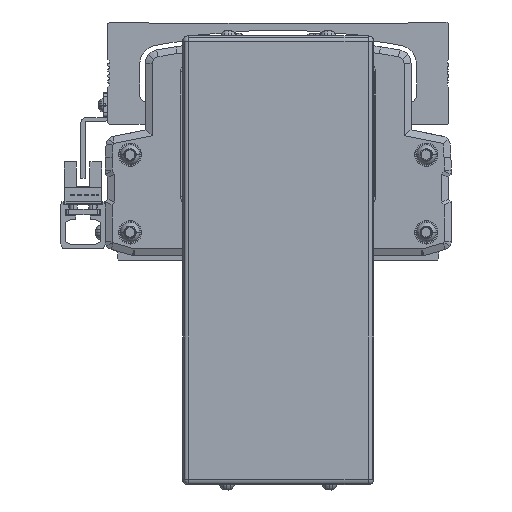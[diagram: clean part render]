
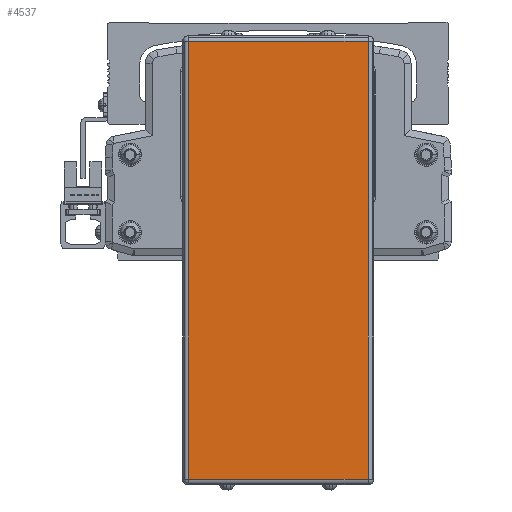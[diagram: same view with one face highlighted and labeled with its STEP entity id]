
A CAD part, front view. The second image highlights one B-rep face of the part: STEP entity #4537.
In plain terms, the highlighted planar face has unit normal (0, -1, 0).
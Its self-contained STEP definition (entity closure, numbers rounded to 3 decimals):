
#4537=ADVANCED_FACE('',(#10814),#10815,.T.);
#10814=FACE_OUTER_BOUND('',#19854,.T.);
#10815=PLANE('',#19855);
#19854=EDGE_LOOP('',(#33424,#33425,#33426,#33427));
#19855=AXIS2_PLACEMENT_3D('',#33428,#33429,#33430);
#33424=ORIENTED_EDGE('',*,*,#51322,.F.);
#33425=ORIENTED_EDGE('',*,*,#51373,.F.);
#33426=ORIENTED_EDGE('',*,*,#54798,.F.);
#33427=ORIENTED_EDGE('',*,*,#52195,.F.);
#33428=CARTESIAN_POINT('',(-299.996,-313.778,-49.1));
#33429=DIRECTION('',(0.,-1.0,0.));
#33430=DIRECTION('',(1.0,0.,0.));
#51322=EDGE_CURVE('',#61248,#61250,#61251,.T.);
#51373=EDGE_CURVE('',#61339,#61248,#61341,.T.);
#52195=EDGE_CURVE('',#61250,#62782,#62783,.T.);
#54798=EDGE_CURVE('',#62782,#61339,#67086,.T.);
#61248=VERTEX_POINT('',#75682);
#61250=VERTEX_POINT('',#75684);
#61251=LINE('',#75685,#75686);
#61339=VERTEX_POINT('',#75793);
#61341=LINE('',#75795,#75796);
#62782=VERTEX_POINT('',#77813);
#62783=LINE('',#77814,#77815);
#67086=LINE('',#84108,#84109);
#75682=CARTESIAN_POINT('',(-267.496,-313.778,30.));
#75684=CARTESIAN_POINT('',(-267.496,-313.778,-128.2));
#75685=CARTESIAN_POINT('',(-267.496,-313.778,-49.1));
#75686=VECTOR('',#94910,10.0);
#75793=CARTESIAN_POINT('',(-332.496,-313.778,30.));
#75795=CARTESIAN_POINT('',(-299.996,-313.778,30.));
#75796=VECTOR('',#94993,10.0);
#77813=CARTESIAN_POINT('',(-332.496,-313.778,-128.2));
#77814=CARTESIAN_POINT('',(-299.996,-313.778,-128.2));
#77815=VECTOR('',#96062,10.0);
#84108=CARTESIAN_POINT('',(-332.496,-313.778,-49.1));
#84109=VECTOR('',#99339,10.0);
#94910=DIRECTION('',(0.0,0.,-1.0));
#94993=DIRECTION('',(1.0,0.,0.));
#96062=DIRECTION('',(-1.0,0.,0.));
#99339=DIRECTION('',(0.0,0.,1.0));
